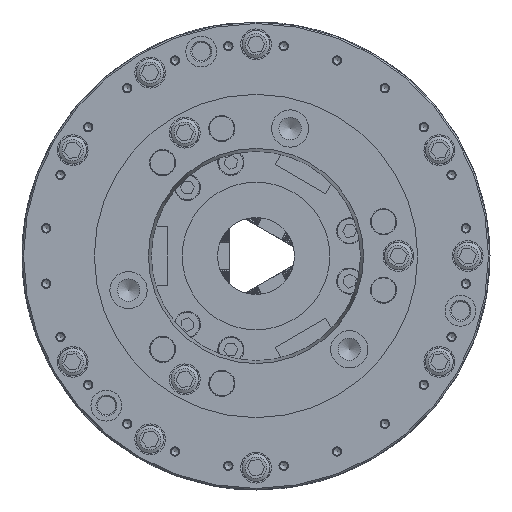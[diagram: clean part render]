
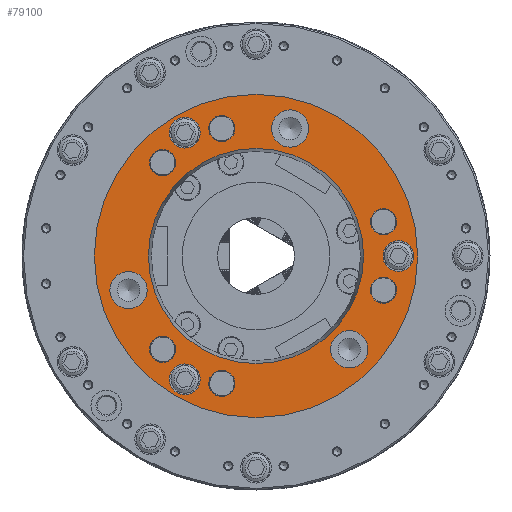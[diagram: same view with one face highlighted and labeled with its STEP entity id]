
A CAD part, left-side view. The second image highlights one B-rep face of the part: STEP entity #79100.
In plain terms, the highlighted planar face has unit normal (-1, 0, 0).
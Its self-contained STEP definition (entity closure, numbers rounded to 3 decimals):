
#350 = DIRECTION ( 'NONE',  ( -1., 0., 0. ) ) ;
#827 = AXIS2_PLACEMENT_3D ( 'NONE', #1616, #22886, #71933 ) ;
#1616 = CARTESIAN_POINT ( 'NONE',  ( -125., 46.25, -80.107 ) ) ;
#2267 = CARTESIAN_POINT ( 'NONE',  ( -125., 0., 0. ) ) ;
#3090 = FACE_BOUND ( 'NONE', #76607, .T. ) ;
#3738 = EDGE_CURVE ( 'NONE', #86870, #86870, #46851, .T. ) ;
#4239 = FACE_BOUND ( 'NONE', #75812, .T. ) ;
#4436 = VERTEX_POINT ( 'NONE', #52181 ) ;
#4725 = EDGE_LOOP ( 'NONE', ( #48114 ) ) ;
#4938 = DIRECTION ( 'NONE',  ( -1., 0., 0. ) ) ;
#5533 = DIRECTION ( 'NONE',  ( 0., 0., 1. ) ) ;
#5652 = EDGE_CURVE ( 'NONE', #12805, #12805, #51036, .T. ) ;
#5877 = CARTESIAN_POINT ( 'NONE',  ( -125., 22.187, 82.804 ) ) ;
#6031 = CARTESIAN_POINT ( 'NONE',  ( -125., 46.25, 80.107 ) ) ;
#6093 = EDGE_LOOP ( 'NONE', ( #48869 ) ) ;
#6617 = DIRECTION ( 'NONE',  ( -1., 0., 0. ) ) ;
#7167 = EDGE_CURVE ( 'NONE', #11677, #11677, #81564, .T. ) ;
#7684 = VERTEX_POINT ( 'NONE', #9890 ) ;
#8286 = DIRECTION ( 'NONE',  ( 0., -0.866, 0.5 ) ) ;
#9403 = DIRECTION ( 'NONE',  ( 0., 0., -1. ) ) ;
#9753 = AXIS2_PLACEMENT_3D ( 'NONE', #25353, #11462, #61486 ) ;
#9782 = DIRECTION ( 'NONE',  ( 0., 0., 1. ) ) ;
#9805 = EDGE_CURVE ( 'NONE', #26049, #26049, #45606, .T. ) ;
#9890 = CARTESIAN_POINT ( 'NONE',  ( -125., -75.443, -26.437 ) ) ;
#11399 = CARTESIAN_POINT ( 'NONE',  ( -125., 82.804, -22.187 ) ) ;
#11462 = DIRECTION ( 'NONE',  ( -1., 0., 0. ) ) ;
#11677 = VERTEX_POINT ( 'NONE', #35490 ) ;
#12563 = CARTESIAN_POINT ( 'NONE',  ( -125., -82.804, -22.187 ) ) ;
#12805 = VERTEX_POINT ( 'NONE', #28425 ) ;
#13579 = CARTESIAN_POINT ( 'NONE',  ( -125., 60.617, -52.117 ) ) ;
#14152 = CARTESIAN_POINT ( 'NONE',  ( -125., -82.804, 22.187 ) ) ;
#15940 = DIRECTION ( 'NONE',  ( -1., 0., 0. ) ) ;
#18344 = ORIENTED_EDGE ( 'NONE', *, *, #84158, .F. ) ;
#19462 = AXIS2_PLACEMENT_3D ( 'NONE', #71900, #350, #84882 ) ;
#19697 = DIRECTION ( 'NONE',  ( -1., 0., 0. ) ) ;
#20223 = DIRECTION ( 'NONE',  ( 1., 0., 0. ) ) ;
#22886 = DIRECTION ( 'NONE',  ( -1., 0., 0. ) ) ;
#24040 = FACE_BOUND ( 'NONE', #49750, .T. ) ;
#25353 = CARTESIAN_POINT ( 'NONE',  ( -125., -22.187, 82.804 ) ) ;
#26049 = VERTEX_POINT ( 'NONE', #28120 ) ;
#26298 = VERTEX_POINT ( 'NONE', #33876 ) ;
#27273 = DIRECTION ( 'NONE',  ( 1., 0., 0. ) ) ;
#28120 = CARTESIAN_POINT ( 'NONE',  ( -125., -83.84, 5. ) ) ;
#28425 = CARTESIAN_POINT ( 'NONE',  ( -125., 82.804, -10.087 ) ) ;
#28904 = AXIS2_PLACEMENT_3D ( 'NONE', #14152, #70023, #48755 ) ;
#29126 = ORIENTED_EDGE ( 'NONE', *, *, #50115, .F. ) ;
#30661 = CARTESIAN_POINT ( 'NONE',  ( -125., 0., 0. ) ) ;
#30683 = VERTEX_POINT ( 'NONE', #55207 ) ;
#31217 = CIRCLE ( 'NONE', #77163, 8.5 ) ;
#32204 = EDGE_LOOP ( 'NONE', ( #49347 ) ) ;
#32846 = EDGE_LOOP ( 'NONE', ( #85382 ) ) ;
#32877 = FACE_BOUND ( 'NONE', #40300, .T. ) ;
#33312 = DIRECTION ( 'NONE',  ( -1., 0., 0. ) ) ;
#33435 = EDGE_CURVE ( 'NONE', #76780, #76780, #35670, .T. ) ;
#33766 = DIRECTION ( 'NONE',  ( 0., -0.866, -0.5 ) ) ;
#33876 = CARTESIAN_POINT ( 'NONE',  ( -125., 14.826, 78.554 ) ) ;
#33921 = DIRECTION ( 'NONE',  ( 0., -0.866, -0.5 ) ) ;
#34317 = CIRCLE ( 'NONE', #9753, 12.1 ) ;
#35092 = FACE_BOUND ( 'NONE', #6093, .T. ) ;
#35490 = CARTESIAN_POINT ( 'NONE',  ( -125., -60.617, -48.517 ) ) ;
#35670 = CIRCLE ( 'NONE', #68978, 69.859 ) ;
#35782 = EDGE_CURVE ( 'NONE', #44711, #44711, #70497, .T. ) ;
#36687 = ORIENTED_EDGE ( 'NONE', *, *, #83493, .T. ) ;
#37712 = DIRECTION ( 'NONE',  ( 0., 0., -1. ) ) ;
#40300 = EDGE_LOOP ( 'NONE', ( #90939 ) ) ;
#41572 = EDGE_LOOP ( 'NONE', ( #29126 ) ) ;
#41735 = FACE_BOUND ( 'NONE', #68402, .T. ) ;
#42101 = EDGE_LOOP ( 'NONE', ( #71985 ) ) ;
#43673 = AXIS2_PLACEMENT_3D ( 'NONE', #6031, #76074, #33766 ) ;
#44255 = EDGE_CURVE ( 'NONE', #4436, #4436, #50659, .T. ) ;
#44711 = VERTEX_POINT ( 'NONE', #66666 ) ;
#44794 = EDGE_CURVE ( 'NONE', #7684, #7684, #47290, .T. ) ;
#45606 = CIRCLE ( 'NONE', #63527, 10. ) ;
#46213 = VERTEX_POINT ( 'NONE', #53726 ) ;
#46716 = EDGE_LOOP ( 'NONE', ( #36687 ) ) ;
#46851 = CIRCLE ( 'NONE', #19462, 8.5 ) ;
#46889 = CARTESIAN_POINT ( 'NONE',  ( -125., 60.617, 52.117 ) ) ;
#47262 = AXIS2_PLACEMENT_3D ( 'NONE', #5877, #33312, #33921 ) ;
#47290 = CIRCLE ( 'NONE', #55062, 8.5 ) ;
#48114 = ORIENTED_EDGE ( 'NONE', *, *, #44794, .F. ) ;
#48755 = DIRECTION ( 'NONE',  ( 0., 0.866, 0.5 ) ) ;
#48869 = ORIENTED_EDGE ( 'NONE', *, *, #7167, .F. ) ;
#49347 = ORIENTED_EDGE ( 'NONE', *, *, #35782, .F. ) ;
#49750 = EDGE_LOOP ( 'NONE', ( #66321 ) ) ;
#50115 = EDGE_CURVE ( 'NONE', #78395, #78395, #34317, .T. ) ;
#50659 = CIRCLE ( 'NONE', #28904, 8.5 ) ;
#51036 = CIRCLE ( 'NONE', #59231, 12.1 ) ;
#51656 = AXIS2_PLACEMENT_3D ( 'NONE', #58854, #15940, #9782 ) ;
#52181 = CARTESIAN_POINT ( 'NONE',  ( -125., -75.443, 26.437 ) ) ;
#52794 = FACE_BOUND ( 'NONE', #32846, .T. ) ;
#53726 = CARTESIAN_POINT ( 'NONE',  ( -125., 46.25, -70.107 ) ) ;
#55062 = AXIS2_PLACEMENT_3D ( 'NONE', #12563, #19697, #69062 ) ;
#55149 = DIRECTION ( 'NONE',  ( 0., 0.866, 0.5 ) ) ;
#55207 = CARTESIAN_POINT ( 'NONE',  ( -125., 0., -105. ) ) ;
#58749 = DIRECTION ( 'NONE',  ( 1., 0., 0. ) ) ;
#58854 = CARTESIAN_POINT ( 'NONE',  ( -125., -60.617, -60.617 ) ) ;
#58962 = CIRCLE ( 'NONE', #47262, 8.5 ) ;
#59231 = AXIS2_PLACEMENT_3D ( 'NONE', #11399, #4938, #5533 ) ;
#59773 = EDGE_LOOP ( 'NONE', ( #18344 ) ) ;
#60559 = FACE_BOUND ( 'NONE', #32204, .T. ) ;
#60780 = AXIS2_PLACEMENT_3D ( 'NONE', #30661, #65267, #9403 ) ;
#61486 = DIRECTION ( 'NONE',  ( 0., 0., 1. ) ) ;
#62521 = ORIENTED_EDGE ( 'NONE', *, *, #44255, .T. ) ;
#63527 = AXIS2_PLACEMENT_3D ( 'NONE', #83479, #20223, #55149 ) ;
#63555 = DIRECTION ( 'NONE',  ( 1., 0., 0. ) ) ;
#64454 = EDGE_LOOP ( 'NONE', ( #69180 ) ) ;
#65267 = DIRECTION ( 'NONE',  ( 1., 0., 0. ) ) ;
#65792 = CARTESIAN_POINT ( 'NONE',  ( -125., 0., -69.859 ) ) ;
#66060 = FACE_BOUND ( 'NONE', #46716, .T. ) ;
#66321 = ORIENTED_EDGE ( 'NONE', *, *, #5652, .F. ) ;
#66666 = CARTESIAN_POINT ( 'NONE',  ( -125., 37.59, 75.107 ) ) ;
#68224 = EDGE_CURVE ( 'NONE', #46213, #46213, #79922, .T. ) ;
#68274 = VERTEX_POINT ( 'NONE', #83544 ) ;
#68402 = EDGE_LOOP ( 'NONE', ( #82128 ) ) ;
#68978 = AXIS2_PLACEMENT_3D ( 'NONE', #2267, #58749, #37712 ) ;
#69062 = DIRECTION ( 'NONE',  ( 0., 0.866, -0.5 ) ) ;
#69180 = ORIENTED_EDGE ( 'NONE', *, *, #68224, .F. ) ;
#69680 = EDGE_CURVE ( 'NONE', #79308, #79308, #31217, .T. ) ;
#70023 = DIRECTION ( 'NONE',  ( 1., 0., 0. ) ) ;
#70169 = PLANE ( 'NONE',  #89403 ) ;
#70479 = DIRECTION ( 'NONE',  ( 0., 0., 1. ) ) ;
#70497 = CIRCLE ( 'NONE', #43673, 10. ) ;
#71900 = CARTESIAN_POINT ( 'NONE',  ( -125., 60.617, -60.617 ) ) ;
#71933 = DIRECTION ( 'NONE',  ( 0., 0., 1. ) ) ;
#71985 = ORIENTED_EDGE ( 'NONE', *, *, #9805, .T. ) ;
#74870 = FACE_OUTER_BOUND ( 'NONE', #59773, .T. ) ;
#74955 = AXIS2_PLACEMENT_3D ( 'NONE', #85408, #63555, #8286 ) ;
#75812 = EDGE_LOOP ( 'NONE', ( #62521 ) ) ;
#76074 = DIRECTION ( 'NONE',  ( -1., 0., 0. ) ) ;
#76607 = EDGE_LOOP ( 'NONE', ( #89559 ) ) ;
#76780 = VERTEX_POINT ( 'NONE', #65792 ) ;
#76993 = CARTESIAN_POINT ( 'NONE',  ( -125., 52.5, -90.933 ) ) ;
#77163 = AXIS2_PLACEMENT_3D ( 'NONE', #90786, #27273, #91124 ) ;
#78133 = FACE_BOUND ( 'NONE', #4725, .T. ) ;
#78395 = VERTEX_POINT ( 'NONE', #87951 ) ;
#79100 = ADVANCED_FACE ( 'NONE', ( #79296, #35092, #24040, #41735, #74870, #52794, #84771, #66060, #78133, #82556, #4239, #3090, #60559, #32877 ), #70169, .T. ) ;
#79296 = FACE_BOUND ( 'NONE', #41572, .T. ) ;
#79308 = VERTEX_POINT ( 'NONE', #46889 ) ;
#79922 = CIRCLE ( 'NONE', #827, 10. ) ;
#81564 = CIRCLE ( 'NONE', #51656, 12.1 ) ;
#82128 = ORIENTED_EDGE ( 'NONE', *, *, #33435, .T. ) ;
#82556 = FACE_BOUND ( 'NONE', #42101, .T. ) ;
#83479 = CARTESIAN_POINT ( 'NONE',  ( -125., -92.5, 0. ) ) ;
#83493 = EDGE_CURVE ( 'NONE', #68274, #68274, #83664, .T. ) ;
#83544 = CARTESIAN_POINT ( 'NONE',  ( -125., 14.826, -78.554 ) ) ;
#83664 = CIRCLE ( 'NONE', #74955, 8.5 ) ;
#84158 = EDGE_CURVE ( 'NONE', #30683, #30683, #90168, .T. ) ;
#84771 = FACE_BOUND ( 'NONE', #64454, .T. ) ;
#84882 = DIRECTION ( 'NONE',  ( 0., 0., 1. ) ) ;
#85382 = ORIENTED_EDGE ( 'NONE', *, *, #3738, .F. ) ;
#85408 = CARTESIAN_POINT ( 'NONE',  ( -125., 22.187, -82.804 ) ) ;
#85734 = EDGE_CURVE ( 'NONE', #26298, #26298, #58962, .T. ) ;
#86870 = VERTEX_POINT ( 'NONE', #13579 ) ;
#87951 = CARTESIAN_POINT ( 'NONE',  ( -125., -22.187, 94.904 ) ) ;
#89403 = AXIS2_PLACEMENT_3D ( 'NONE', #76993, #6617, #70479 ) ;
#89559 = ORIENTED_EDGE ( 'NONE', *, *, #85734, .F. ) ;
#90168 = CIRCLE ( 'NONE', #60780, 105. ) ;
#90786 = CARTESIAN_POINT ( 'NONE',  ( -125., 60.617, 60.617 ) ) ;
#90939 = ORIENTED_EDGE ( 'NONE', *, *, #69680, .T. ) ;
#91124 = DIRECTION ( 'NONE',  ( 0., 0., -1. ) ) ;
